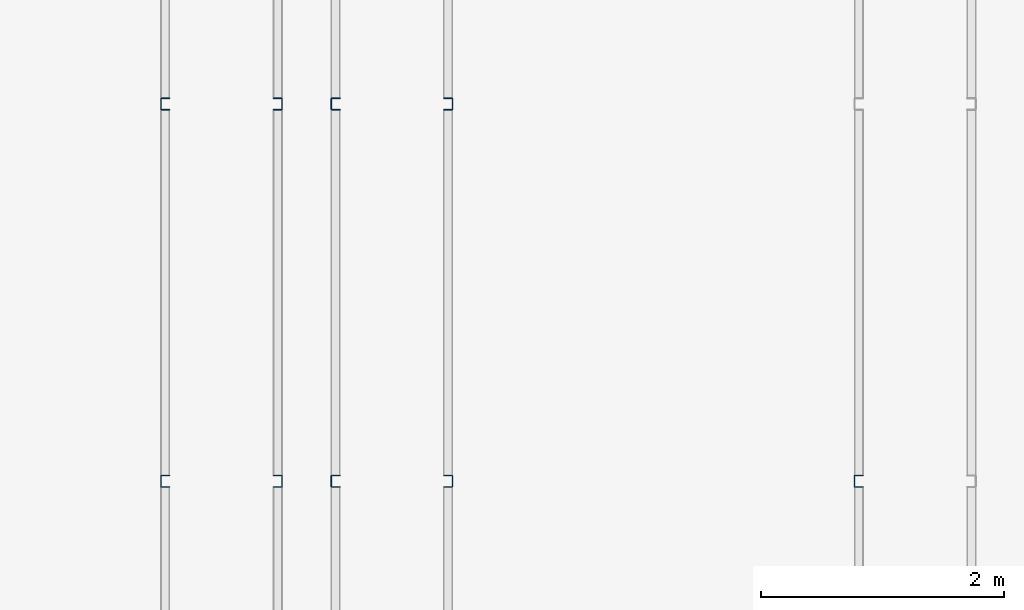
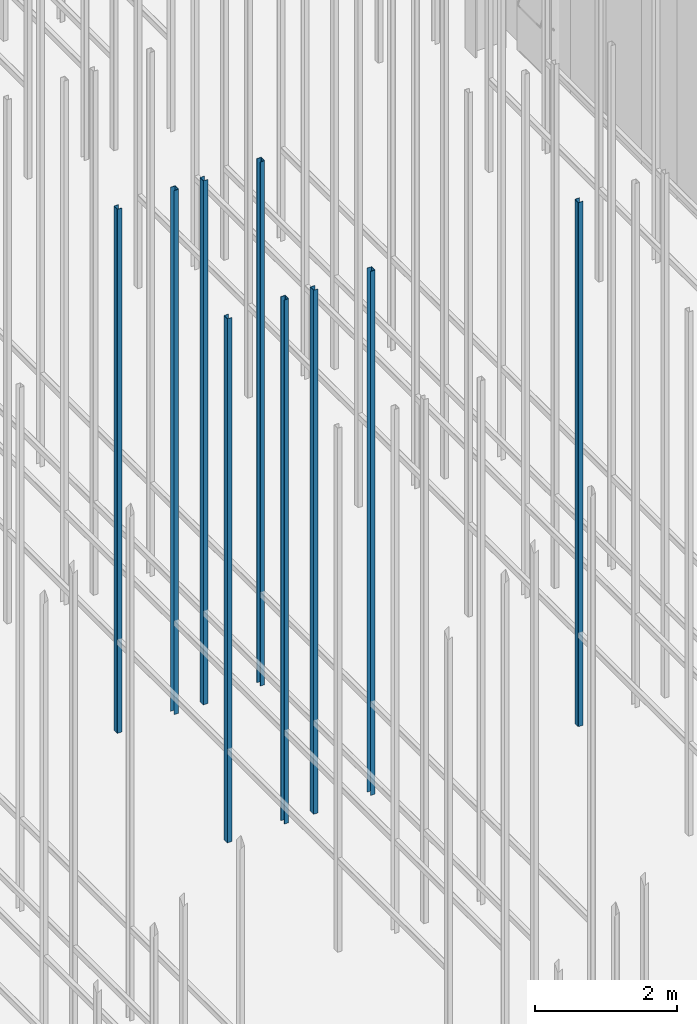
# One storey, part 24 of 302: 9 columns.
"""IFC2X3 building model written with IfcOpenShell, lengths in metres."""

from ifc_helpers import new_model, entity, si_unit, converted_unit, derived_unit, direction, frame, frame_2d, origin, place, context, subcontext, project, spatial, polyline, circle_curve, parameter, trimmed, segment, composite_curve, outline, extrude, source, transform, mapped, material, type_object, type_shapes, element, save


model = new_model("IFC2X3")

# Units and contexts
model_context = context("Model", 3, precision=1e-05, world=origin(), true_north=direction((6.12303176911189e-17, 1.0)))
body_context = subcontext(model_context, "Body", "Model", "MODEL_VIEW")
ifc_project = project(units=[si_unit("LENGTHUNIT", "METRE"), si_unit("AREAUNIT", "SQUARE_METRE"), si_unit("VOLUMEUNIT", "CUBIC_METRE"), converted_unit("PLANEANGLEUNIT", "DEGREE", entity("IfcRatioMeasure", 0.0174532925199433), si_unit("PLANEANGLEUNIT", "RADIAN"), dimensions=[0, 0, 0, 0, 0, 0, 0]), si_unit("MASSUNIT", "GRAM", prefix="KILO"), derived_unit("MASSDENSITYUNIT", [(si_unit("MASSUNIT", "GRAM", prefix="KILO"), 1), (si_unit("LENGTHUNIT", "METRE"), -3)]), derived_unit("MOMENTOFINERTIAUNIT", [(si_unit("LENGTHUNIT", "METRE"), 4)]), si_unit("TIMEUNIT", "SECOND"), si_unit("FREQUENCYUNIT", "HERTZ"), si_unit("THERMODYNAMICTEMPERATUREUNIT", "DEGREE_CELSIUS"), derived_unit("THERMALTRANSMITTANCEUNIT", [(si_unit("MASSUNIT", "GRAM", prefix="KILO"), 1), (si_unit("THERMODYNAMICTEMPERATUREUNIT", "KELVIN"), -1), (si_unit("TIMEUNIT", "SECOND"), -3)]), derived_unit("VOLUMETRICFLOWRATEUNIT", [(si_unit("LENGTHUNIT", "METRE"), 3), (si_unit("TIMEUNIT", "SECOND"), -1)]), si_unit("ELECTRICCURRENTUNIT", "AMPERE"), si_unit("ELECTRICVOLTAGEUNIT", "VOLT"), si_unit("POWERUNIT", "WATT"), si_unit("FORCEUNIT", "NEWTON", prefix="KILO"), si_unit("ILLUMINANCEUNIT", "LUX"), si_unit("LUMINOUSFLUXUNIT", "LUMEN"), si_unit("LUMINOUSINTENSITYUNIT", "CANDELA"), derived_unit("USERDEFINED", [(si_unit("MASSUNIT", "GRAM", prefix="KILO"), -1), (si_unit("LENGTHUNIT", "METRE"), -2), (si_unit("TIMEUNIT", "SECOND"), 3), (si_unit("LUMINOUSFLUXUNIT", "LUMEN"), 1)]), derived_unit("LINEARVELOCITYUNIT", [(si_unit("LENGTHUNIT", "METRE"), 1), (si_unit("TIMEUNIT", "SECOND"), -1)]), si_unit("PRESSUREUNIT", "PASCAL"), derived_unit("USERDEFINED", [(si_unit("LENGTHUNIT", "METRE"), -2), (si_unit("MASSUNIT", "GRAM", prefix="KILO"), 1), (si_unit("TIMEUNIT", "SECOND"), -2)]), derived_unit("LINEARFORCEUNIT", [(si_unit("MASSUNIT", "GRAM", prefix="KILO"), 1), (si_unit("LENGTHUNIT", "METRE"), 1), (si_unit("TIMEUNIT", "SECOND"), -2), (si_unit("LENGTHUNIT", "METRE"), -1)]), derived_unit("PLANARFORCEUNIT", [(si_unit("MASSUNIT", "GRAM", prefix="KILO"), 1), (si_unit("LENGTHUNIT", "METRE"), 1), (si_unit("TIMEUNIT", "SECOND"), -2), (si_unit("LENGTHUNIT", "METRE"), -2)])], contexts=[model_context])

# Site, building, storey
site_placement = place(None, origin())
site = spatial("IfcSite", under=ifc_project, at=site_placement, Name="Default", CompositionType="ELEMENT")
building_placement = place(site_placement, origin())
building = spatial("IfcBuilding", under=site, at=building_placement, CompositionType="ELEMENT")
storey_placement = place(building_placement, frame((0.0, 0.0, -1.3)))
storey = spatial("IfcBuildingStorey", under=building, at=storey_placement, Name="00_EG", CompositionType="ELEMENT", Elevation=-1.3)

# Columns
ifc_material = material(Name="Metall - Baustahl S235")
column_type_1 = type_object("IfcColumnType", Name="Leichter Stahl Schlossschrauben Stütze:C 100", PredefinedType="COLUMN", material=ifc_material)
shared_shape_1 = source(origin(), body_context, "Body", "SweptSolid", [
    extrude(outline(composite_curve([segment(polyline([(-0.0469749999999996, -0.0499999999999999), (0.0214500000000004, -0.0499999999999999)]), True, "CONTINUOUS"), segment(trimmed(circle_curve(frame_2d((0.0214500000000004, -0.0434249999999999), x_axis=(0.0, -1.0)), 0.00657500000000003), [parameter(0.0)], [parameter(89.9999999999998)], True, "PARAMETER"), True, "CONTINUOUS"), segment(polyline([(0.0280250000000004, -0.0434249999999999), (0.0280250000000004, 0.0434250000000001)]), True, "CONTINUOUS"), segment(trimmed(circle_curve(frame_2d((0.0214500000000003, 0.0434250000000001), x_axis=(1.0, 0.0)), 0.0065750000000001), [parameter(0.0)], [parameter(89.9999999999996)], True, "PARAMETER"), True, "CONTINUOUS"), segment(polyline([(0.0214500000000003, 0.0500000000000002), (-0.0469750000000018, 0.0500000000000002)]), True, "CONTINUOUS"), segment(polyline([(-0.0469750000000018, 0.0500000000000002), (-0.0469750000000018, 0.0450000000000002)]), True, "CONTINUOUS"), segment(polyline([(-0.0469750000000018, 0.0450000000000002), (0.0214500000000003, 0.0450000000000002)]), True, "CONTINUOUS"), segment(trimmed(circle_curve(frame_2d((0.0214500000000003, 0.0434249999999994), x_axis=(0.0, 1.0)), 0.00157500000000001), [parameter(269.999999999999)], [parameter(0.0)], True, "PARAMETER"), False, "CONTINUOUS"), segment(polyline([(0.0230250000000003, 0.0434249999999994), (0.0230250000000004, -0.0434249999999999)]), True, "CONTINUOUS"), segment(trimmed(circle_curve(frame_2d((0.0214500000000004, -0.0434249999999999), x_axis=(1.0, 0.0)), 0.00157500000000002), [parameter(270.0)], [parameter(0.0)], True, "PARAMETER"), False, "CONTINUOUS"), segment(polyline([(0.0214500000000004, -0.0449999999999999), (-0.0469749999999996, -0.0449999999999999)]), True, "CONTINUOUS"), segment(polyline([(-0.0469749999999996, -0.0449999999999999), (-0.0469749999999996, -0.0499999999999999)]), True, "CONTINUOUS")], self_intersect=False)), frame((0.0499999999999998, 0.0280250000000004, -0.0300000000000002), z_axis=(0.0, 0.0, 1.0), x_axis=(0.0, -1.0, 0.0)), (0.0, 0.0, 1.0), 9.0),
])
type_shapes(column_type_1, [shared_shape_1])
for number, where, z_axis, x_axis in (
    (1, (-190.790111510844, 33.348088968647, 1.3), (0.0, 0.0, 1.0), (0.0, -1.0, 0.0)),
    (2, (-190.790111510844, 36.448088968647, 1.3), (0.0, 0.0, 1.0), (0.0, -1.0, 0.0)),
    (3, (-189.390111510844, 33.348088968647, 1.3), (0.0, 0.0, 1.0), (0.0, -1.0, 0.0)),
    (4, (-189.390111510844, 36.448088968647, 1.3), (0.0, 0.0, 1.0), (0.0, -1.0, 0.0)),
    (5, (-185.090111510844, 33.348088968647, 1.3), (0.0, 0.0, 1.0), (0.0, -1.0, 0.0)),
):
    element("IfcColumn", number, at=place(storey_placement, frame(where, z_axis=z_axis, x_axis=x_axis)), inside=storey, type_object=column_type_1, material=ifc_material, Name="Leichter Stahl Schlossschrauben Stütze:C 100", ObjectType="Leichter Stahl Schlossschrauben Stütze:C 100", context=body_context, shape_type="MappedRepresentation", body=[
        mapped(shared_shape_1, transform((0.0, 0.0, 0.0), scale=1.0)),
    ])
column_type_2 = type_object("IfcColumnType", Name="Leichter Stahl Schlossschrauben Stütze:C 100", PredefinedType="COLUMN", material=ifc_material)
shared_shape_2 = source(origin(), body_context, "Body", "SweptSolid", [
    extrude(outline(composite_curve([segment(polyline([(-0.0214500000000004, -0.0499999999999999), (0.0469749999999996, -0.0499999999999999)]), True, "CONTINUOUS"), segment(polyline([(0.0469749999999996, -0.0499999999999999), (0.0469749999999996, -0.0449999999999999)]), True, "CONTINUOUS"), segment(polyline([(0.0469749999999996, -0.0449999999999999), (-0.0214500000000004, -0.045)]), True, "CONTINUOUS"), segment(trimmed(circle_curve(frame_2d((-0.0214500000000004, -0.043425), x_axis=(0.0, -1.0)), 0.00157500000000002), [parameter(270.0)], [parameter(0.0)], True, "PARAMETER"), False, "CONTINUOUS"), segment(polyline([(-0.0230250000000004, -0.0434249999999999), (-0.0230250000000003, 0.0434249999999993)]), True, "CONTINUOUS"), segment(trimmed(circle_curve(frame_2d((-0.0214500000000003, 0.0434249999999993), x_axis=(-1.0, 0.0)), 0.00157500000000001), [parameter(269.999999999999)], [parameter(0.0)], True, "PARAMETER"), False, "CONTINUOUS"), segment(polyline([(-0.0214500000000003, 0.0450000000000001), (0.0469750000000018, 0.0450000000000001)]), True, "CONTINUOUS"), segment(polyline([(0.0469750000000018, 0.0450000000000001), (0.0469750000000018, 0.0500000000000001)]), True, "CONTINUOUS"), segment(polyline([(0.0469750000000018, 0.0500000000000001), (-0.0214500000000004, 0.0500000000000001)]), True, "CONTINUOUS"), segment(trimmed(circle_curve(frame_2d((-0.0214500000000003, 0.043425), x_axis=(0.0, 1.0)), 0.0065750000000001), [parameter(0.0)], [parameter(89.9999999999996)], True, "PARAMETER"), True, "CONTINUOUS"), segment(polyline([(-0.0280250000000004, 0.043425), (-0.0280250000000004, -0.043425)]), True, "CONTINUOUS"), segment(trimmed(circle_curve(frame_2d((-0.0214500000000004, -0.0434249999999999), x_axis=(-1.0, 0.0)), 0.00657500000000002), [parameter(0.0)], [parameter(89.9999999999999)], True, "PARAMETER"), True, "CONTINUOUS")], self_intersect=False)), frame((0.0499999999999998, -0.0280250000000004, -0.0300000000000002), z_axis=(0.0, 0.0, 1.0), x_axis=(0.0, -1.0, 0.0)), (0.0, 0.0, 1.0), 9.0),
])
type_shapes(column_type_2, [shared_shape_2])
for number, where, z_axis, x_axis in (
    (6, (-189.790111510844, 33.348088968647, 1.3), (0.0, 0.0, 1.0), (0.0, -1.0, 0.0)),
    (7, (-189.790111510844, 36.448088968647, 1.3), (0.0, 0.0, 1.0), (0.0, -1.0, 0.0)),
    (8, (-188.390111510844, 33.348088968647, 1.3), (0.0, 0.0, 1.0), (0.0, -1.0, 0.0)),
    (9, (-188.390111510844, 36.448088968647, 1.3), (0.0, 0.0, 1.0), (0.0, -1.0, 0.0)),
):
    element("IfcColumn", number, at=place(storey_placement, frame(where, z_axis=z_axis, x_axis=x_axis)), inside=storey, type_object=column_type_2, material=ifc_material, Name="Leichter Stahl Schlossschrauben Stütze:C 100", ObjectType="Leichter Stahl Schlossschrauben Stütze:C 100", context=body_context, shape_type="MappedRepresentation", body=[
        mapped(shared_shape_2, transform((0.0, 0.0, 0.0), scale=1.0)),
    ])

save(model, "model.ifc")
